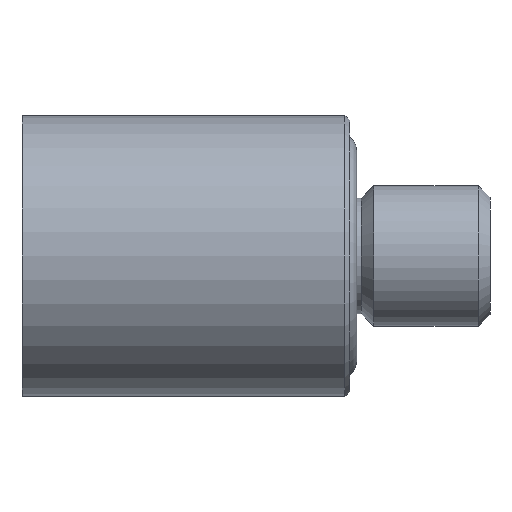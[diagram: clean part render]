
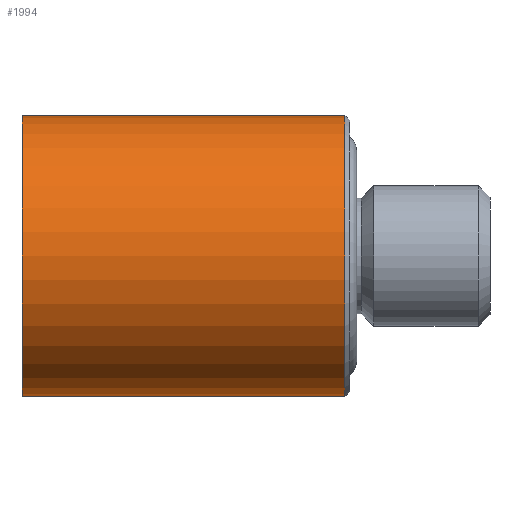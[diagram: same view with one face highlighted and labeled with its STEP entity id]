
A CAD part, left-side view. The second image highlights one B-rep face of the part: STEP entity #1994.
In plain terms, the highlighted cylindrical face has radius 6 mm (diameter 12 mm), a partial arc.
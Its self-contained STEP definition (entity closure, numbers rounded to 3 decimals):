
#189 = EDGE_LOOP ( 'NONE', ( #2057, #2065, #2084, #2101 ) ) ;
#229 = AXIS2_PLACEMENT_3D ( 'NONE', #2406, #2421, #2397 ) ;
#234 = VECTOR ( 'NONE', #2468, 1000. ) ;
#243 = CIRCLE ( 'NONE', #229, 6. ) ;
#249 = VECTOR ( 'NONE', #2505, 1000. ) ;
#464 = AXIS2_PLACEMENT_3D ( 'NONE', #933, #954, #941 ) ;
#594 = CARTESIAN_POINT ( 'NONE',  ( 0., 0.2, -6. ) ) ;
#611 = CARTESIAN_POINT ( 'NONE',  ( 0., 0.2, 6. ) ) ;
#612 = CARTESIAN_POINT ( 'NONE',  ( 0., 14., -6. ) ) ;
#620 = CARTESIAN_POINT ( 'NONE',  ( 0., 14., 6. ) ) ;
#895 = CYLINDRICAL_SURFACE ( 'NONE', #464, 6. ) ;
#912 = FACE_OUTER_BOUND ( 'NONE', #189, .T. ) ;
#933 = CARTESIAN_POINT ( 'NONE',  ( 0., 0., 0. ) ) ;
#941 = DIRECTION ( 'NONE',  ( 0., 0., 1. ) ) ;
#954 = DIRECTION ( 'NONE',  ( 0., 1., 0. ) ) ;
#1349 = CIRCLE ( 'NONE', #1370, 6. ) ;
#1370 = AXIS2_PLACEMENT_3D ( 'NONE', #1444, #1439, #1426 ) ;
#1426 = DIRECTION ( 'NONE',  ( 0., 0., 1. ) ) ;
#1439 = DIRECTION ( 'NONE',  ( 0., -1., 0. ) ) ;
#1444 = CARTESIAN_POINT ( 'NONE',  ( 0., 0.2, 0. ) ) ;
#1752 = EDGE_CURVE ( 'NONE', #2932, #2915, #1349, .T. ) ;
#1795 = EDGE_CURVE ( 'NONE', #2918, #2916, #243, .T. ) ;
#1810 = EDGE_CURVE ( 'NONE', #2915, #2918, #2464, .T. ) ;
#1821 = EDGE_CURVE ( 'NONE', #2932, #2916, #2452, .T. ) ;
#1994 = ADVANCED_FACE ( 'NONE', ( #912 ), #895, .T. ) ;
#2057 = ORIENTED_EDGE ( 'NONE', *, *, #1810, .F. ) ;
#2065 = ORIENTED_EDGE ( 'NONE', *, *, #1752, .F. ) ;
#2084 = ORIENTED_EDGE ( 'NONE', *, *, #1821, .T. ) ;
#2101 = ORIENTED_EDGE ( 'NONE', *, *, #1795, .F. ) ;
#2397 = DIRECTION ( 'NONE',  ( 0., 0., -1. ) ) ;
#2406 = CARTESIAN_POINT ( 'NONE',  ( 0., 14., 0. ) ) ;
#2421 = DIRECTION ( 'NONE',  ( 0., 1., 0. ) ) ;
#2452 = LINE ( 'NONE', #2482, #249 ) ;
#2464 = LINE ( 'NONE', #2467, #234 ) ;
#2467 = CARTESIAN_POINT ( 'NONE',  ( 0., 0., -6. ) ) ;
#2468 = DIRECTION ( 'NONE',  ( 0., 1., 0. ) ) ;
#2482 = CARTESIAN_POINT ( 'NONE',  ( 0., 0., 6. ) ) ;
#2505 = DIRECTION ( 'NONE',  ( 0., 1., 0. ) ) ;
#2915 = VERTEX_POINT ( 'NONE', #594 ) ;
#2916 = VERTEX_POINT ( 'NONE', #620 ) ;
#2918 = VERTEX_POINT ( 'NONE', #612 ) ;
#2932 = VERTEX_POINT ( 'NONE', #611 ) ;
